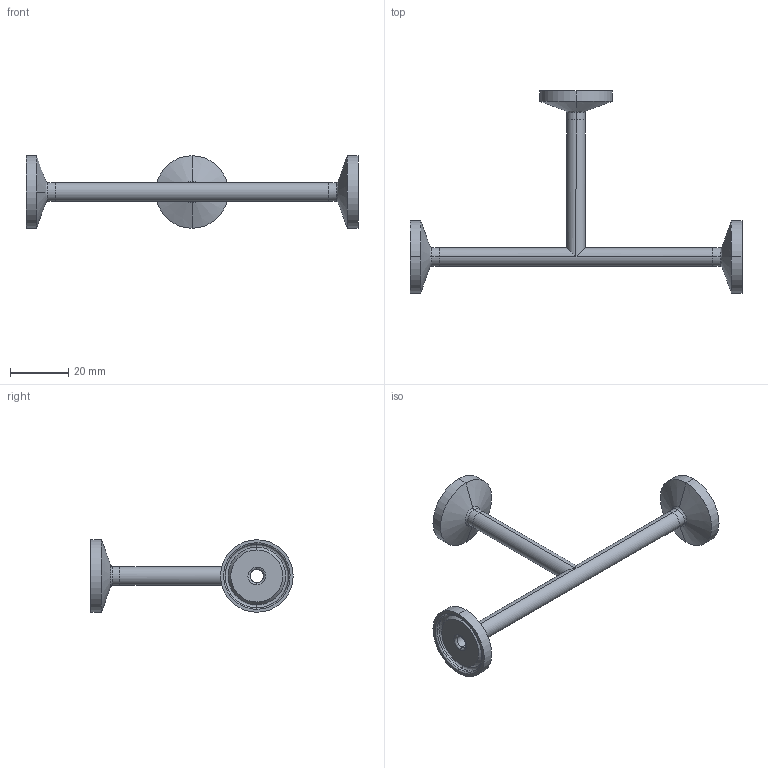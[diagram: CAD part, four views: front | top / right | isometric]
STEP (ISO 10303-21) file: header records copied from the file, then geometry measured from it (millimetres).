
FILE_DESCRIPTION (( 'STEP AP214' ), '1' );
FILE_NAME ('TEG76L.25-...STEP', '2016-05-23T06:35:49', ( 'eran' ), ( '' ), 'SwSTEP 2.0', 'SolidWorks 2016', '' );
FILE_SCHEMA (( 'AUTOMOTIVE_DESIGN' ));
Length unit declared in the file: millimetre
Products named in the file (1): TEG76L.25-..
Bounding box: 114.4 x 69.7 x 24.99 mm (x, y, z)
Volume: 8212.3 mm3; surface area: 9578.6 mm2
Topology: 4 solids, 4 shells, 82 faces, 184 edges, 112 vertices
Faces by surface type: cylinder 34, bspline 24, plane 12, cone 12
Entity records: 2657 total; most frequent: CARTESIAN_POINT 787, DIRECTION 406, ORIENTED_EDGE 368, EDGE_CURVE 184, AXIS2_PLACEMENT_3D 179, CIRCLE 120, VERTEX_POINT 112, EDGE_LOOP 94
